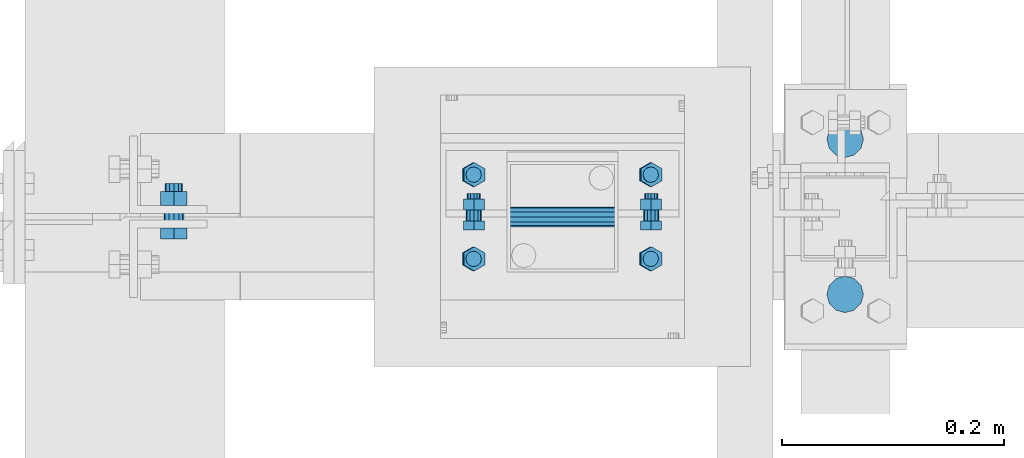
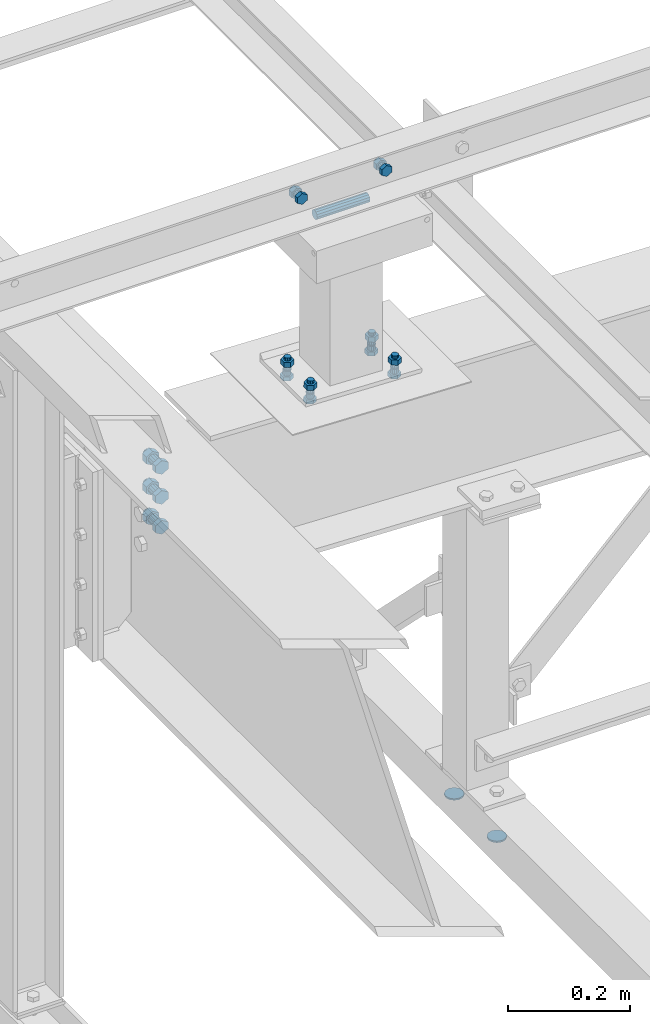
# One storey, part 5 of 3134: 6 mechanical fasteners, 4 elements without a shape of their own.
"""IFC2X3 building model written with IfcOpenShell, lengths in millimetres."""

from ifc_helpers import new_model, si_unit, frame, origin_with_axes, place, context, subcontext, project, spatial, faceted_brep, source, transform, mapped, material, type_object, element, aggregate, save


model = new_model("IFC2X3")

# Units and contexts
model_context = context("Model", 3, precision=1e-05, world=origin_with_axes())
body_context = subcontext(model_context, "Body", "Model", "MODEL_VIEW")
ifc_project = project(units=[si_unit("LENGTHUNIT", "METRE", prefix="MILLI"), si_unit("AREAUNIT", "SQUARE_METRE"), si_unit("VOLUMEUNIT", "CUBIC_METRE"), si_unit("MASSUNIT", "GRAM", prefix="KILO"), si_unit("TIMEUNIT", "SECOND"), si_unit("PLANEANGLEUNIT", "RADIAN"), si_unit("SOLIDANGLEUNIT", "STERADIAN"), si_unit("THERMODYNAMICTEMPERATUREUNIT", "DEGREE_CELSIUS"), si_unit("LUMINOUSINTENSITYUNIT", "LUMEN")], contexts=[model_context])

# Site, building, storey
site_placement = place(None, origin_with_axes())
site = spatial("IfcSite", under=ifc_project, at=site_placement, CompositionType="ELEMENT")
building_placement = place(site_placement, origin_with_axes())
building = spatial("IfcBuilding", under=site, at=building_placement, Name="Undefined", CompositionType="ELEMENT")
storey_placement = place(building_placement, origin_with_axes())
storey = spatial("IfcBuildingStorey", under=building, at=storey_placement, Name="Undefined", CompositionType="ELEMENT", Elevation=0.0)

# Assembly, mechanical fastener
assembly_1_placement = place(storey_placement, origin_with_axes())
assembly_1 = element("IfcElementAssembly", 1, at=assembly_1_placement, inside=storey, AssemblyPlace="NOTDEFINED", PredefinedType="RIGID_FRAME")
ifc_material = material(Name="8.8")
mechanical_fastener_type = type_object("IfcMechanicalFastenerType", Name="Bolt assembly")
shared_shape_1 = source(origin_with_axes(), body_context, "Body", "Brep", [
    faceted_brep([(16.5, -3.0, 0.0), (14.289419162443, -3.0, 8.25000000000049), (8.24999999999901, -3.0, 14.2894191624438), (-1.70995436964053e-12, -3.0, 16.5), (-8.25000000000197, -3.0, 14.2894191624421), (-14.2894191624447, -3.0, 8.24999999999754), (-16.5, -3.0, -3.41990873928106e-12), (-14.2894191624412, -3.0, -8.25000000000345), (-8.24999999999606, -3.0, -14.2894191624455), (5.11154442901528e-12, -3.0, -16.5), (8.25000000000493, -3.0, -14.2894191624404), (14.2894191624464, -3.0, -8.24999999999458), (14.2894191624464, 0.1, -8.24999999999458), (8.25000000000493, 0.1, -14.2894191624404), (5.11154442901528e-12, 0.1, -16.5), (-8.24999999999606, 0.1, -14.2894191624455), (-14.2894191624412, 0.1, -8.25000000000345), (-16.5, 0.1, -3.41990873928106e-12), (-14.2894191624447, 0.1, 8.24999999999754), (-8.25000000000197, 0.1, 14.2894191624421), (-1.70995436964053e-12, 0.1, 16.5), (8.24999999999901, 0.1, 14.2894191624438), (14.289419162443, 0.1, 8.25000000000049), (16.5, 0.1, 0.0)], [[[0, 1, 2, 3, 4, 5, 6, 7, 8, 9, 10, 11]], [[12, 13, 14, 15, 16, 17, 18, 19, 20, 21, 22, 23]], [[0, 23, 22, 1]], [[1, 22, 21, 2]], [[2, 21, 20, 3]], [[3, 20, 19, 4]], [[4, 19, 18, 5]], [[5, 18, 17, 6]], [[6, 17, 16, 7]], [[7, 16, 15, 8]], [[8, 15, 14, 9]], [[9, 14, 13, 10]], [[10, 13, 12, 11]], [[11, 12, 23, 0]]]),
])
mechanical_fastener_1_placement = place(assembly_1_placement, frame((650.0, 13130.0, 3040.0), z_axis=(1.0, 0.0, 0.0), x_axis=(0.0, -1.0, 0.0)))
mechanical_fastener_1 = element("IfcMechanicalFastener", 2, at=mechanical_fastener_1_placement, type_object=mechanical_fastener_type, material=ifc_material, Name="Bolt assembly", NominalDiameter=30.0, NominalLength=3.0, context=body_context, shape_type="MappedRepresentation", body=[
    mapped(shared_shape_1, transform((0.0, 0.0, 0.0))),
    mapped(shared_shape_1, transform((140.0, 0.0, 0.0))),
])
aggregate(assembly_1, [mechanical_fastener_1])

assembly_2_placement = place(storey_placement, origin_with_axes())
assembly_2 = element("IfcElementAssembly", 3, at=assembly_2_placement, inside=storey, AssemblyPlace="NOTDEFINED", PredefinedType="RIGID_FRAME")
shared_shape_2 = source(origin_with_axes(), body_context, "Body", "Brep", [
    faceted_brep([(13.856406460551, -20.0400000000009, 0.0), (6.92820323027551, -20.0400000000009, 12.0), (-6.92820323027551, -20.0400000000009, 12.0), (-13.856406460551, -20.0400000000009, 1.69692038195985e-15), (-6.92820323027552, -20.0400000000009, -12.0), (6.9282032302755, -20.0400000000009, -12.0), (6.9282032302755, -10.0400000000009, -12.0), (-6.92820323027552, -10.0400000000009, -12.0), (-13.856406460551, -10.0400000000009, 1.69692038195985e-15), (-6.92820323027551, -10.0400000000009, 12.0), (6.92820323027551, -10.0400000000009, 12.0), (13.856406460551, -10.0400000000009, 0.0), (8.0, -10.0400000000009, 0.0), (6.92820323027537, -10.0400000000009, 4.00000000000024), (3.99999999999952, -10.0400000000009, 6.92820323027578), (-8.29068785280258e-13, -10.0400000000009, 8.0), (-4.00000000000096, -10.0400000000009, 6.92820323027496), (-6.9282032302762, -10.0400000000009, 3.99999999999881), (-8.0, -10.0400000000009, -1.65813757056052e-12), (-6.92820323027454, -10.0400000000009, -4.00000000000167), (-3.99999999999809, -10.0400000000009, -6.92820323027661), (2.47832457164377e-12, -10.0400000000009, -8.0), (4.00000000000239, -10.0400000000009, -6.92820323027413), (6.92820323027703, -10.0400000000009, -3.99999999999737), (6.92820323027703, 29.9599999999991, -3.99999999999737), (4.00000000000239, 29.9599999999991, -6.92820323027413), (2.47832457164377e-12, 29.9599999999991, -8.0), (-3.99999999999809, 29.9599999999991, -6.92820323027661), (-6.92820323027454, 29.9599999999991, -4.00000000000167), (-8.0, 29.9599999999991, -1.65813757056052e-12), (-6.9282032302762, 29.9599999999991, 3.99999999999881), (-4.00000000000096, 29.9599999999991, 6.92820323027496), (-8.29068785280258e-13, 29.9599999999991, 8.0), (3.99999999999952, 29.9599999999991, 6.92820323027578), (6.92820323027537, 29.9599999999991, 4.00000000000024), (8.0, 29.9599999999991, 0.0), (13.856406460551, 10.0400000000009, 0.0), (6.92820323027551, 10.0400000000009, 12.0), (-6.92820323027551, 10.0400000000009, 12.0), (-13.856406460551, 10.0400000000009, 1.69692038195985e-15), (-6.92820323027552, 10.0400000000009, -12.0), (6.9282032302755, 10.0400000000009, -12.0), (6.9282032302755, 23.0400000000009, -12.0), (-6.92820323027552, 23.0400000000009, -12.0), (-13.856406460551, 23.0400000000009, 1.69692038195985e-15), (-6.92820323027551, 23.0400000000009, 12.0), (6.92820323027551, 23.0400000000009, 12.0), (13.856406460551, 23.0400000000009, 0.0)], [[[0, 1, 2, 3, 4, 5]], [[6, 7, 8, 9, 10, 11]], [[0, 11, 10, 1]], [[1, 10, 9, 2]], [[2, 9, 8, 3]], [[3, 8, 7, 4]], [[4, 7, 6, 5]], [[5, 6, 11, 0]], [[12, 13, 14, 15, 16, 17, 18, 19, 20, 21, 22, 23]], [[24, 25, 26, 27, 28, 29, 30, 31, 32, 33, 34, 35]], [[12, 35, 34, 13]], [[13, 34, 33, 14]], [[14, 33, 32, 15]], [[15, 32, 31, 16]], [[16, 31, 30, 17]], [[17, 30, 29, 18]], [[18, 29, 28, 19]], [[19, 28, 27, 20]], [[20, 27, 26, 21]], [[21, 26, 25, 22]], [[22, 25, 24, 23]], [[23, 24, 35, 12]], [[36, 37, 38, 39, 40, 41]], [[42, 43, 44, 45, 46, 47]], [[36, 47, 46, 37]], [[37, 46, 45, 38]], [[38, 45, 44, 39]], [[39, 44, 43, 40]], [[40, 43, 42, 41]], [[41, 42, 47, 36]]]),
    faceted_brep([(9.0, -3.04999995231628, 0.0), (7.79422863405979, -3.04999995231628, 4.50000000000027), (4.49999999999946, -3.04999995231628, 7.79422863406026), (-9.3270238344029e-13, -3.04999995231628, 9.0), (-4.50000000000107, -3.04999995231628, 7.79422863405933), (-7.79422863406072, -3.04999995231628, 4.49999999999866), (-9.0, -3.04999995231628, -1.86540476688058e-12), (-7.79422863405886, -3.04999995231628, -4.50000000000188), (-4.49999999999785, -3.04999995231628, -7.79422863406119), (2.78811514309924e-12, -3.04999995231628, -9.0), (4.50000000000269, -3.04999995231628, -7.7942286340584), (7.79422863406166, -3.04999995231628, -4.49999999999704), (7.79422863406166, 3.04999995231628, -4.49999999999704), (4.50000000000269, 3.04999995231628, -7.7942286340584), (2.78811514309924e-12, 3.04999995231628, -9.0), (-4.49999999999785, 3.04999995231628, -7.79422863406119), (-7.79422863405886, 3.04999995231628, -4.50000000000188), (-9.0, 3.04999995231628, -1.86540476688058e-12), (-7.79422863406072, 3.04999995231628, 4.49999999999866), (-4.50000000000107, 3.04999995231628, 7.79422863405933), (-9.3270238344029e-13, 3.04999995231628, 9.0), (4.49999999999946, 3.04999995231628, 7.79422863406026), (7.79422863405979, 3.04999995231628, 4.50000000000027), (9.0, 3.04999995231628, 0.0), (9.0, -9.94000000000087, 0.0), (7.79422863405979, -9.94000000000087, 4.50000000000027), (4.49999999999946, -9.94000000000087, 7.79422863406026), (-9.3270238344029e-13, -9.94000000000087, 9.0), (-4.50000000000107, -9.94000000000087, 7.79422863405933), (-7.79422863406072, -9.94000000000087, 4.49999999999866), (-9.0, -9.94000000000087, -1.86540476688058e-12), (-7.79422863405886, -9.94000000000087, -4.50000000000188), (-4.49999999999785, -9.94000000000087, -7.79422863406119), (2.78811514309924e-12, -9.94000000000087, -9.0), (4.50000000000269, -9.94000000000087, -7.7942286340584), (7.79422863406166, -9.94000000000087, -4.49999999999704), (7.79422863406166, -2.94000000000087, -4.49999999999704), (4.50000000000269, -2.94000000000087, -7.7942286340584), (2.78811514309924e-12, -2.94000000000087, -9.0), (-4.49999999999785, -2.94000000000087, -7.79422863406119), (-7.79422863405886, -2.94000000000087, -4.50000000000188), (-9.0, -2.94000000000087, -1.86540476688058e-12), (-7.79422863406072, -2.94000000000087, 4.49999999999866), (-4.50000000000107, -2.94000000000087, 7.79422863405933), (-9.3270238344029e-13, -2.94000000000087, 9.0), (4.49999999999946, -2.94000000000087, 7.79422863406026), (7.79422863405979, -2.94000000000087, 4.50000000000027), (9.0, -2.94000000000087, 0.0), (9.0, 2.94000000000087, 0.0), (7.79422863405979, 2.94000000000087, 4.50000000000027), (4.49999999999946, 2.94000000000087, 7.79422863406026), (-9.3270238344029e-13, 2.94000000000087, 9.0), (-4.50000000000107, 2.94000000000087, 7.79422863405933), (-7.79422863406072, 2.94000000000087, 4.49999999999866), (-9.0, 2.94000000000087, -1.86540476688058e-12), (-7.79422863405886, 2.94000000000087, -4.50000000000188), (-4.49999999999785, 2.94000000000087, -7.79422863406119), (2.78811514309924e-12, 2.94000000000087, -9.0), (4.50000000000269, 2.94000000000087, -7.7942286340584), (7.79422863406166, 2.94000000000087, -4.49999999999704), (7.79422863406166, 10.0400000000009, -4.49999999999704), (4.50000000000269, 10.0400000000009, -7.7942286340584), (2.78811514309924e-12, 10.0400000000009, -9.0), (-4.49999999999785, 10.0400000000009, -7.79422863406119), (-7.79422863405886, 10.0400000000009, -4.50000000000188), (-9.0, 10.0400000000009, -1.86540476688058e-12), (-7.79422863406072, 10.0400000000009, 4.49999999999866), (-4.50000000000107, 10.0400000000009, 7.79422863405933), (-9.3270238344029e-13, 10.0400000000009, 9.0), (4.49999999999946, 10.0400000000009, 7.79422863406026), (7.79422863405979, 10.0400000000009, 4.50000000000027), (9.0, 10.0400000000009, 0.0)], [[[0, 1, 2, 3, 4, 5, 6, 7, 8, 9, 10, 11]], [[12, 13, 14, 15, 16, 17, 18, 19, 20, 21, 22, 23]], [[0, 23, 22, 1]], [[1, 22, 21, 2]], [[2, 21, 20, 3]], [[3, 20, 19, 4]], [[4, 19, 18, 5]], [[5, 18, 17, 6]], [[6, 17, 16, 7]], [[7, 16, 15, 8]], [[8, 15, 14, 9]], [[9, 14, 13, 10]], [[10, 13, 12, 11]], [[11, 12, 23, 0]], [[24, 25, 26, 27, 28, 29, 30, 31, 32, 33, 34, 35]], [[36, 37, 38, 39, 40, 41, 42, 43, 44, 45, 46, 47]], [[24, 47, 46, 25]], [[25, 46, 45, 26]], [[26, 45, 44, 27]], [[27, 44, 43, 28]], [[28, 43, 42, 29]], [[29, 42, 41, 30]], [[30, 41, 40, 31]], [[31, 40, 39, 32]], [[32, 39, 38, 33]], [[33, 38, 37, 34]], [[34, 37, 36, 35]], [[35, 36, 47, 24]], [[48, 49, 50, 51, 52, 53, 54, 55, 56, 57, 58, 59]], [[60, 61, 62, 63, 64, 65, 66, 67, 68, 69, 70, 71]], [[48, 71, 70, 49]], [[49, 70, 69, 50]], [[50, 69, 68, 51]], [[51, 68, 67, 52]], [[52, 67, 66, 53]], [[53, 66, 65, 54]], [[54, 65, 64, 55]], [[55, 64, 63, 56]], [[56, 63, 62, 57]], [[57, 62, 61, 58]], [[58, 61, 60, 59]], [[59, 60, 71, 48]]]),
])
mechanical_fastener_2_placement = place(assembly_2_placement, frame((44.2936480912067, 13060.0, 3841.86727512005), z_axis=(-1.0, 0.0, 0.0), x_axis=(0.0, 0.0, 1.0)))
mechanical_fastener_2 = element("IfcMechanicalFastener", 4, at=mechanical_fastener_2_placement, type_object=mechanical_fastener_type, material=ifc_material, Name="Bolt assembly", NominalDiameter=16.0, NominalLength=40.0, context=body_context, shape_type="MappedRepresentation", body=[
    mapped(shared_shape_2, transform((0.0, 0.0, 0.0))),
    mapped(shared_shape_2, transform((59.9999999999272, 0.0, 5.40239852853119e-10))),
    mapped(shared_shape_2, transform((120.0, 0.0, 0.0))),
])
aggregate(assembly_2, [mechanical_fastener_2])

assembly_3_placement = place(storey_placement, origin_with_axes())
assembly_3 = element("IfcElementAssembly", 5, at=assembly_3_placement, inside=storey, AssemblyPlace="NOTDEFINED", PredefinedType="RIGID_FRAME")
shared_shape_3 = source(origin_with_axes(), body_context, "Body", "Brep", [
    faceted_brep([(10.9696551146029, -4.19432770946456, 0.0), (5.48482755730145, -4.19432770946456, 9.5), (-5.48482755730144, -4.19432770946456, 9.5), (-10.9696551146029, -4.19432770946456, 1.34339530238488e-15), (-5.48482755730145, -4.19432770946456, -9.5), (5.48482755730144, -4.19432770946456, -9.50000000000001), (5.48482755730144, 3.80567229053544, -9.50000000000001), (-5.48482755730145, 3.80567229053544, -9.5), (-10.9696551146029, 3.80567229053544, 1.34339530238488e-15), (-5.48482755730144, 3.80567229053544, 9.5), (5.48482755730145, 3.80567229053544, 9.5), (10.9696551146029, 3.80567229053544, 0.0), (6.0, 3.80567229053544, 0.0), (5.19615242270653, 3.80567229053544, 3.00000000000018), (2.99999999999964, 3.80567229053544, 5.19615242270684), (-6.21801588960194e-13, 3.80567229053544, 6.0), (-3.00000000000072, 3.80567229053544, 5.19615242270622), (-5.19615242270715, 3.80567229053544, 2.9999999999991), (-6.0, 3.80567229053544, -1.24360317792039e-12), (-5.19615242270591, 3.80567229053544, -3.00000000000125), (-2.99999999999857, 3.80567229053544, -5.19615242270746), (1.85874342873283e-12, 3.80567229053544, -6.0), (3.00000000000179, 3.80567229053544, -5.1961524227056), (5.19615242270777, 3.80567229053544, -2.99999999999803), (5.19615242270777, 38.8056722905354, -2.99999999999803), (3.00000000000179, 38.8056722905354, -5.1961524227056), (1.85874342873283e-12, 38.8056722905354, -6.0), (-2.99999999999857, 38.8056722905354, -5.19615242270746), (-5.19615242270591, 38.8056722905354, -3.00000000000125), (-6.0, 38.8056722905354, -1.24360317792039e-12), (-5.19615242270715, 38.8056722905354, 2.9999999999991), (-3.00000000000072, 38.8056722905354, 5.19615242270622), (-6.21801588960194e-13, 38.8056722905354, 6.0), (2.99999999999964, 38.8056722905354, 5.19615242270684), (5.19615242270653, 38.8056722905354, 3.00000000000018), (6.0, 38.8056722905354, 0.0), (10.9696551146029, 23.0139082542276, 0.0), (5.48482755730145, 23.0139082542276, 9.5), (-5.48482755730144, 23.0139082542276, 9.5), (-10.9696551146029, 23.0139082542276, 1.34339530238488e-15), (-5.48482755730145, 23.0139082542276, -9.5), (5.48482755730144, 23.0139082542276, -9.50000000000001), (5.48482755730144, 33.0139082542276, -9.50000000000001), (-5.48482755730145, 33.0139082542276, -9.5), (-10.9696551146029, 33.0139082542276, 1.34339530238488e-15), (-5.48482755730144, 33.0139082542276, 9.5), (5.48482755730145, 33.0139082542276, 9.5), (10.9696551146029, 33.0139082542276, 0.0)], [[[0, 1, 2, 3, 4, 5]], [[6, 7, 8, 9, 10, 11]], [[0, 11, 10, 1]], [[1, 10, 9, 2]], [[2, 9, 8, 3]], [[3, 8, 7, 4]], [[4, 7, 6, 5]], [[5, 6, 11, 0]], [[12, 13, 14, 15, 16, 17, 18, 19, 20, 21, 22, 23]], [[24, 25, 26, 27, 28, 29, 30, 31, 32, 33, 34, 35]], [[12, 35, 34, 13]], [[13, 34, 33, 14]], [[14, 33, 32, 15]], [[15, 32, 31, 16]], [[16, 31, 30, 17]], [[17, 30, 29, 18]], [[18, 29, 28, 19]], [[19, 28, 27, 20]], [[20, 27, 26, 21]], [[21, 26, 25, 22]], [[22, 25, 24, 23]], [[23, 24, 35, 12]], [[36, 37, 38, 39, 40, 41]], [[42, 43, 44, 45, 46, 47]], [[36, 47, 46, 37]], [[37, 46, 45, 38]], [[38, 45, 44, 39]], [[39, 44, 43, 40]], [[40, 43, 42, 41]], [[41, 42, 47, 36]]]),
    faceted_brep([(7.0, 3.90567229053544, 0.0), (6.06217782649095, 3.90567229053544, 3.50000000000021), (3.49999999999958, 3.90567229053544, 6.06217782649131), (-7.25435187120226e-13, 3.90567229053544, 7.0), (-3.50000000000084, 3.90567229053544, 6.06217782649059), (-6.06217782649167, 3.90567229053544, 3.49999999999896), (-7.0, 3.90567229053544, -1.45087037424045e-12), (-6.06217782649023, 3.90567229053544, -3.50000000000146), (-3.49999999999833, 3.90567229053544, -6.06217782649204), (2.1685340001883e-12, 3.90567229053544, -7.0), (3.50000000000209, 3.90567229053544, -6.06217782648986), (6.0621778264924, 3.90567229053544, -3.4999999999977), (6.0621778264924, 13.1056721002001, -3.4999999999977), (3.50000000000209, 13.1056721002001, -6.06217782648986), (2.1685340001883e-12, 13.1056721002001, -7.0), (-3.49999999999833, 13.1056721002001, -6.06217782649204), (-6.06217782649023, 13.1056721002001, -3.50000000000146), (-7.0, 13.1056721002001, -1.45087037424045e-12), (-6.06217782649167, 13.1056721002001, 3.49999999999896), (-3.50000000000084, 13.1056721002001, 6.06217782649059), (-7.25435187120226e-13, 13.1056721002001, 7.0), (3.49999999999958, 13.1056721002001, 6.06217782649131), (6.06217782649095, 13.1056721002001, 3.50000000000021), (7.0, 13.1056721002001, 0.0), (7.0, 14.9139082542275, 0.0), (6.06217782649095, 14.9139082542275, 3.50000000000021), (3.49999999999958, 14.9139082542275, 6.06217782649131), (-7.25435187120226e-13, 14.9139082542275, 7.0), (-3.50000000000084, 14.9139082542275, 6.06217782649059), (-6.06217782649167, 14.9139082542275, 3.49999999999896), (-7.0, 14.9139082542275, -1.45087037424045e-12), (-6.06217782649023, 14.9139082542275, -3.50000000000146), (-3.49999999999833, 14.9139082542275, -6.06217782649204), (2.1685340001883e-12, 14.9139082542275, -7.0), (3.50000000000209, 14.9139082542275, -6.06217782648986), (6.0621778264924, 14.9139082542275, -3.4999999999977), (6.0621778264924, 23.0139082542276, -3.4999999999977), (3.50000000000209, 23.0139082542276, -6.06217782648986), (2.1685340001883e-12, 23.0139082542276, -7.0), (-3.49999999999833, 23.0139082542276, -6.06217782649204), (-6.06217782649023, 23.0139082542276, -3.50000000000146), (-7.0, 23.0139082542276, -1.45087037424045e-12), (-6.06217782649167, 23.0139082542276, 3.49999999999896), (-3.50000000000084, 23.0139082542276, 6.06217782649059), (-7.25435187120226e-13, 23.0139082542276, 7.0), (3.49999999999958, 23.0139082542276, 6.06217782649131), (6.06217782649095, 23.0139082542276, 3.50000000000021), (7.0, 23.0139082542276, 0.0)], [[[0, 1, 2, 3, 4, 5, 6, 7, 8, 9, 10, 11]], [[12, 13, 14, 15, 16, 17, 18, 19, 20, 21, 22, 23]], [[0, 23, 22, 1]], [[1, 22, 21, 2]], [[2, 21, 20, 3]], [[3, 20, 19, 4]], [[4, 19, 18, 5]], [[5, 18, 17, 6]], [[6, 17, 16, 7]], [[7, 16, 15, 8]], [[8, 15, 14, 9]], [[9, 14, 13, 10]], [[10, 13, 12, 11]], [[11, 12, 23, 0]], [[24, 25, 26, 27, 28, 29, 30, 31, 32, 33, 34, 35]], [[36, 37, 38, 39, 40, 41, 42, 43, 44, 45, 46, 47]], [[24, 47, 46, 25]], [[25, 46, 45, 26]], [[26, 45, 44, 27]], [[27, 44, 43, 28]], [[28, 43, 42, 29]], [[29, 42, 41, 30]], [[30, 41, 40, 31]], [[31, 40, 39, 32]], [[32, 39, 38, 33]], [[33, 38, 37, 34]], [[34, 37, 36, 35]], [[35, 36, 47, 24]]]),
])
mechanical_fastener_3_placement = place(assembly_3_placement, frame((394.193176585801, 13097.9999999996, 4013.19000668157), z_axis=(-0.999387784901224, 0.0, 0.0349865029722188), x_axis=(0.0, -1.0, 0.0)))
mechanical_fastener_3 = element("IfcMechanicalFastener", 6, at=mechanical_fastener_3_placement, type_object=mechanical_fastener_type, material=ifc_material, Name="Bolt assembly", NominalDiameter=12.0, NominalLength=35.0, context=body_context, shape_type="MappedRepresentation", body=[
    mapped(shared_shape_3, transform((0.0, -5.32963895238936e-10, -79.9999999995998))),
    mapped(shared_shape_3, transform((76.0, -5.32963895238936e-10, -79.9999999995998))),
    mapped(shared_shape_3, transform((0.0, 5.3114490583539e-10, 79.9999999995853))),
    mapped(shared_shape_3, transform((76.0, 5.3114490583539e-10, 79.9999999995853))),
])

assembly_4_placement = place(storey_placement, origin_with_axes())
assembly_4 = element("IfcElementAssembly", 7, at=assembly_4_placement, inside=storey, AssemblyPlace="NOTDEFINED", PredefinedType="RIGID_FRAME")
shared_shape_4 = source(origin_with_axes(), body_context, "Body", "Brep", [
    faceted_brep([(7.0, 13.0000253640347, 0.0), (6.06217782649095, 13.0000253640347, 3.50000000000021), (3.49999999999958, 13.0000253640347, 6.06217782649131), (-7.25435187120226e-13, 13.0000253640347, 7.0), (-3.50000000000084, 13.0000253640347, 6.06217782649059), (-6.06217782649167, 13.0000253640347, 3.49999999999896), (-7.0, 13.0000253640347, -1.45087037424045e-12), (-6.06217782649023, 13.0000253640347, -3.50000000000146), (-3.49999999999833, 13.0000253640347, -6.06217782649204), (2.1685340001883e-12, 13.0000253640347, -7.0), (3.50000000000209, 13.0000253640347, -6.06217782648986), (6.0621778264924, 13.0000253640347, -3.4999999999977), (6.0621778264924, 15.0999999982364, -3.4999999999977), (3.50000000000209, 15.0999999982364, -6.06217782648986), (2.1685340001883e-12, 15.0999999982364, -7.0), (-3.49999999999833, 15.0999999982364, -6.06217782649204), (-6.06217782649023, 15.0999999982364, -3.50000000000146), (-7.0, 15.0999999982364, -1.45087037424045e-12), (-6.06217782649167, 15.0999999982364, 3.49999999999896), (-3.50000000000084, 15.0999999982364, 6.06217782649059), (-7.25435187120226e-13, 15.0999999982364, 7.0), (3.49999999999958, 15.0999999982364, 6.06217782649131), (6.06217782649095, 15.0999999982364, 3.50000000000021), (7.0, 15.0999999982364, 0.0)], [[[0, 1, 2, 3, 4, 5, 6, 7, 8, 9, 10, 11]], [[12, 13, 14, 15, 16, 17, 18, 19, 20, 21, 22, 23]], [[0, 23, 22, 1]], [[1, 22, 21, 2]], [[2, 21, 20, 3]], [[3, 20, 19, 4]], [[4, 19, 18, 5]], [[5, 18, 17, 6]], [[6, 17, 16, 7]], [[7, 16, 15, 8]], [[8, 15, 14, 9]], [[9, 14, 13, 10]], [[10, 13, 12, 11]], [[11, 12, 23, 0]]]),
])
mechanical_fastener_4_placement = place(assembly_4_placement, frame((394.193176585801, 13097.9999999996, 4013.19000668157), z_axis=(-0.999387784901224, 0.0, 0.0349865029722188), x_axis=(0.0, -1.0, 0.0)))
mechanical_fastener_4 = element("IfcMechanicalFastener", 8, at=mechanical_fastener_4_placement, type_object=mechanical_fastener_type, material=ifc_material, Name="Bolt assembly", NominalDiameter=12.0, NominalLength=2.0, context=body_context, shape_type="MappedRepresentation", body=[
    mapped(shared_shape_4, transform((0.0, -5.32963895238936e-10, -79.9999999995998))),
    mapped(shared_shape_4, transform((76.0, -5.32963895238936e-10, -79.9999999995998))),
    mapped(shared_shape_4, transform((0.0, 5.3114490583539e-10, 79.9999999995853))),
    mapped(shared_shape_4, transform((76.0, 5.3114490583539e-10, 79.9999999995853))),
])
aggregate(assembly_4, [mechanical_fastener_4])

# Mechanical fastener
shared_shape_5 = source(origin_with_axes(), body_context, "Body", "Brep", [
    faceted_brep([(9.0, -50.0, 0.0), (7.79422863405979, -50.0, 4.50000000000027), (4.49999999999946, -50.0, 7.79422863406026), (-9.3270238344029e-13, -50.0, 9.0), (-4.50000000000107, -50.0, 7.79422863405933), (-7.79422863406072, -50.0, 4.49999999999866), (-9.0, -50.0, -1.86540476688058e-12), (-7.79422863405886, -50.0, -4.50000000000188), (-4.49999999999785, -50.0, -7.79422863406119), (2.78811514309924e-12, -50.0, -9.0), (4.50000000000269, -50.0, -7.7942286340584), (7.79422863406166, -50.0, -4.49999999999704), (7.79422863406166, 50.1, -4.49999999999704), (4.50000000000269, 50.1, -7.7942286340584), (2.78811514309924e-12, 50.1, -9.0), (-4.49999999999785, 50.1, -7.79422863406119), (-7.79422863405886, 50.1, -4.50000000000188), (-9.0, 50.1, -1.86540476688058e-12), (-7.79422863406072, 50.1, 4.49999999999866), (-4.50000000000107, 50.1, 7.79422863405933), (-9.3270238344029e-13, 50.1, 9.0), (4.49999999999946, 50.1, 7.79422863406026), (7.79422863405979, 50.1, 4.50000000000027), (9.0, 50.1, 0.0)], [[[0, 1, 2, 3, 4, 5, 6, 7, 8, 9, 10, 11]], [[12, 13, 14, 15, 16, 17, 18, 19, 20, 21, 22, 23]], [[0, 23, 22, 1]], [[1, 22, 21, 2]], [[2, 21, 20, 3]], [[3, 20, 19, 4]], [[4, 19, 18, 5]], [[5, 18, 17, 6]], [[6, 17, 16, 7]], [[7, 16, 15, 8]], [[8, 15, 14, 9]], [[9, 14, 13, 10]], [[10, 13, 12, 11]], [[11, 12, 23, 0]]]),
])
mechanical_fastener_5_placement = place(assembly_3_placement, frame((395.0, 13060.0, 4351.0), z_axis=(0.0, 1.0, 0.0), x_axis=(0.0, 0.0, 1.0)))
mechanical_fastener_5 = element("IfcMechanicalFastener", 9, at=mechanical_fastener_5_placement, type_object=mechanical_fastener_type, material=ifc_material, Name="Bolt assembly", NominalDiameter=16.0, NominalLength=100.0, context=body_context, shape_type="MappedRepresentation", body=[
    mapped(shared_shape_5, transform((0.0, 0.0, 0.0))),
])

shared_shape_6 = source(origin_with_axes(), body_context, "Body", "Brep", [
    faceted_brep([(10.9696551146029, -12.0, 0.0), (5.48482755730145, -12.0, 9.5), (-5.48482755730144, -12.0, 9.5), (-10.9696551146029, -12.0, 1.34339530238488e-15), (-5.48482755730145, -12.0, -9.5), (5.48482755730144, -12.0, -9.50000000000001), (5.48482755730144, -4.0, -9.50000000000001), (-5.48482755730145, -4.0, -9.5), (-10.9696551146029, -4.0, 1.34339530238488e-15), (-5.48482755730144, -4.0, 9.5), (5.48482755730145, -4.0, 9.5), (10.9696551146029, -4.0, 0.0), (6.0, -4.0, 0.0), (5.19615242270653, -4.0, 3.00000000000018), (2.99999999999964, -4.0, 5.19615242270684), (-6.21801588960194e-13, -4.0, 6.0), (-3.00000000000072, -4.0, 5.19615242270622), (-5.19615242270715, -4.0, 2.9999999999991), (-6.0, -4.0, -1.24360317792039e-12), (-5.19615242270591, -4.0, -3.00000000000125), (-2.99999999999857, -4.0, -5.19615242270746), (1.85874342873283e-12, -4.0, -6.0), (3.00000000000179, -4.0, -5.1961524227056), (5.19615242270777, -4.0, -2.99999999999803), (5.19615242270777, 21.0, -2.99999999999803), (3.00000000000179, 21.0, -5.1961524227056), (1.85874342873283e-12, 21.0, -6.0), (-2.99999999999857, 21.0, -5.19615242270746), (-5.19615242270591, 21.0, -3.00000000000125), (-6.0, 21.0, -1.24360317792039e-12), (-5.19615242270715, 21.0, 2.9999999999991), (-3.00000000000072, 21.0, 5.19615242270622), (-6.21801588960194e-13, 21.0, 6.0), (2.99999999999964, 21.0, 5.19615242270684), (5.19615242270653, 21.0, 3.00000000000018), (6.0, 21.0, 0.0), (10.9696551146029, 6.00000000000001, 0.0), (5.48482755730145, 6.00000000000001, 9.5), (-5.48482755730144, 6.00000000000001, 9.5), (-10.9696551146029, 6.00000000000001, 1.34339530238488e-15), (-5.48482755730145, 6.00000000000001, -9.5), (5.48482755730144, 6.00000000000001, -9.50000000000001), (5.48482755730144, 16.0, -9.50000000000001), (-5.48482755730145, 16.0, -9.5), (-10.9696551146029, 16.0, 1.34339530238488e-15), (-5.48482755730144, 16.0, 9.5), (5.48482755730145, 16.0, 9.5), (10.9696551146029, 16.0, 0.0)], [[[0, 1, 2, 3, 4, 5]], [[6, 7, 8, 9, 10, 11]], [[0, 11, 10, 1]], [[1, 10, 9, 2]], [[2, 9, 8, 3]], [[3, 8, 7, 4]], [[4, 7, 6, 5]], [[5, 6, 11, 0]], [[12, 13, 14, 15, 16, 17, 18, 19, 20, 21, 22, 23]], [[24, 25, 26, 27, 28, 29, 30, 31, 32, 33, 34, 35]], [[12, 35, 34, 13]], [[13, 34, 33, 14]], [[14, 33, 32, 15]], [[15, 32, 31, 16]], [[16, 31, 30, 17]], [[17, 30, 29, 18]], [[18, 29, 28, 19]], [[19, 28, 27, 20]], [[20, 27, 26, 21]], [[21, 26, 25, 22]], [[22, 25, 24, 23]], [[23, 24, 35, 12]], [[36, 37, 38, 39, 40, 41]], [[42, 43, 44, 45, 46, 47]], [[36, 47, 46, 37]], [[37, 46, 45, 38]], [[38, 45, 44, 39]], [[39, 44, 43, 40]], [[40, 43, 42, 41]], [[41, 42, 47, 36]]]),
    faceted_brep([(7.0, -3.9, 0.0), (6.06217782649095, -3.9, 3.50000000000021), (3.49999999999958, -3.9, 6.06217782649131), (-7.25435187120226e-13, -3.9, 7.0), (-3.50000000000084, -3.9, 6.06217782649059), (-6.06217782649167, -3.9, 3.49999999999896), (-7.0, -3.9, -1.45087037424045e-12), (-6.06217782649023, -3.9, -3.50000000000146), (-3.49999999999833, -3.9, -6.06217782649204), (2.1685340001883e-12, -3.9, -7.0), (3.50000000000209, -3.9, -6.06217782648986), (6.0621778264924, -3.9, -3.4999999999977), (6.0621778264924, 0.0999999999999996, -3.4999999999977), (3.50000000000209, 0.0999999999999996, -6.06217782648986), (2.1685340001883e-12, 0.0999999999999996, -7.0), (-3.49999999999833, 0.0999999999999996, -6.06217782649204), (-6.06217782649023, 0.0999999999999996, -3.50000000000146), (-7.0, 0.0999999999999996, -1.45087037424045e-12), (-6.06217782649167, 0.0999999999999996, 3.49999999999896), (-3.50000000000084, 0.0999999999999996, 6.06217782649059), (-7.25435187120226e-13, 0.0999999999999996, 7.0), (3.49999999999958, 0.0999999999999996, 6.06217782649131), (6.06217782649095, 0.0999999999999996, 3.50000000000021), (7.0, 0.0999999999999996, 0.0), (7.0, -0.1, 0.0), (6.06217782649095, -0.1, 3.50000000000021), (3.49999999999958, -0.1, 6.06217782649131), (-7.25435187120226e-13, -0.1, 7.0), (-3.50000000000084, -0.1, 6.06217782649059), (-6.06217782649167, -0.1, 3.49999999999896), (-7.0, -0.1, -1.45087037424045e-12), (-6.06217782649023, -0.1, -3.50000000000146), (-3.49999999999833, -0.1, -6.06217782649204), (2.1685340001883e-12, -0.1, -7.0), (3.50000000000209, -0.1, -6.06217782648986), (6.0621778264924, -0.1, -3.4999999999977), (6.0621778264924, 6.00000000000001, -3.4999999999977), (3.50000000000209, 6.00000000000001, -6.06217782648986), (2.1685340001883e-12, 6.00000000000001, -7.0), (-3.49999999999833, 6.00000000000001, -6.06217782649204), (-6.06217782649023, 6.00000000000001, -3.50000000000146), (-7.0, 6.00000000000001, -1.45087037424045e-12), (-6.06217782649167, 6.00000000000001, 3.49999999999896), (-3.50000000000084, 6.00000000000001, 6.06217782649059), (-7.25435187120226e-13, 6.00000000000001, 7.0), (3.49999999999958, 6.00000000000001, 6.06217782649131), (6.06217782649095, 6.00000000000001, 3.50000000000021), (7.0, 6.00000000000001, 0.0)], [[[0, 1, 2, 3, 4, 5, 6, 7, 8, 9, 10, 11]], [[12, 13, 14, 15, 16, 17, 18, 19, 20, 21, 22, 23]], [[0, 23, 22, 1]], [[1, 22, 21, 2]], [[2, 21, 20, 3]], [[3, 20, 19, 4]], [[4, 19, 18, 5]], [[5, 18, 17, 6]], [[6, 17, 16, 7]], [[7, 16, 15, 8]], [[8, 15, 14, 9]], [[9, 14, 13, 10]], [[10, 13, 12, 11]], [[11, 12, 23, 0]], [[24, 25, 26, 27, 28, 29, 30, 31, 32, 33, 34, 35]], [[36, 37, 38, 39, 40, 41, 42, 43, 44, 45, 46, 47]], [[24, 47, 46, 25]], [[25, 46, 45, 26]], [[26, 45, 44, 27]], [[27, 44, 43, 28]], [[28, 43, 42, 29]], [[29, 42, 41, 30]], [[30, 41, 40, 31]], [[31, 40, 39, 32]], [[32, 39, 38, 33]], [[33, 38, 37, 34]], [[34, 37, 36, 35]], [[35, 36, 47, 24]]]),
])
mechanical_fastener_6_placement = place(assembly_3_placement, frame((394.999950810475, 13059.999683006, 4400.0), z_axis=(1.0, 0.0, 0.0), x_axis=(0.0, 0.0, -1.0)))
mechanical_fastener_6 = element("IfcMechanicalFastener", 10, at=mechanical_fastener_6_placement, type_object=mechanical_fastener_type, material=ifc_material, Name="Bolt assembly", NominalDiameter=12.0, NominalLength=25.0, context=body_context, shape_type="MappedRepresentation", body=[
    mapped(shared_shape_6, transform((0.0, -5.32963895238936e-10, -79.9999999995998))),
    mapped(shared_shape_6, transform((0.0, 5.3114490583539e-10, 79.9999999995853))),
])

aggregate(assembly_3, [mechanical_fastener_5, mechanical_fastener_6, mechanical_fastener_3])

save(model, "model.ifc")
